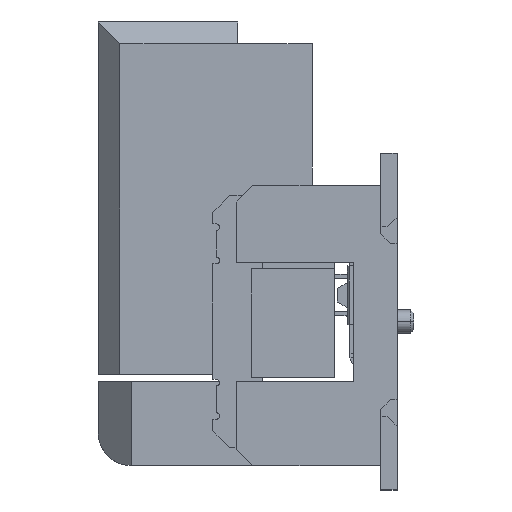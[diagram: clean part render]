
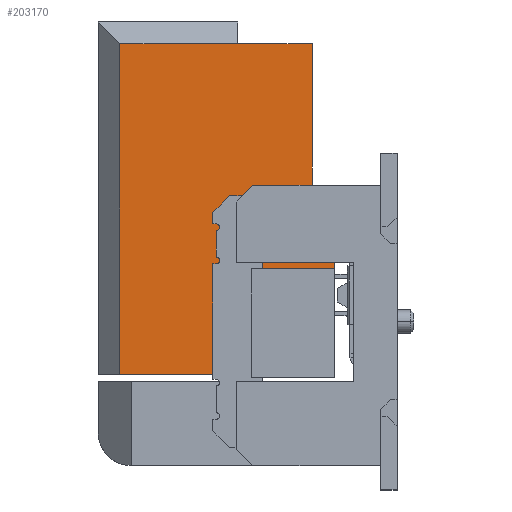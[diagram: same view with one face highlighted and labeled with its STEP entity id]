
A CAD part, left-side view. The second image highlights one B-rep face of the part: STEP entity #203170.
In plain terms, the highlighted planar face has unit normal (-1, 0, 0) as drawn and (1, 0, 0) by its records, which use the part's own axes.
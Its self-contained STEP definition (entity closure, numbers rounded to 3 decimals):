
#155870=CARTESIAN_POINT('',(7.01,12.71,
4.8));
#155880=VERTEX_POINT('',#155870);
#167600=CARTESIAN_POINT('',(7.01,2.75,
8.35));
#167610=VERTEX_POINT('',#167600);
#167640=CARTESIAN_POINT('',(7.01,2.75,
9.));
#167650=DIRECTION('',(0.,0.,-1.));
#167660=VECTOR('',#167650,1.);
#167670=LINE('',#167640,#167660);
#167680=CARTESIAN_POINT('',(7.01,2.75,
4.4));
#167690=VERTEX_POINT('',#167680);
#167700=EDGE_CURVE('',#167610,#167690,#167670,.T.);
#202490=CARTESIAN_POINT('',(7.01,2.75,
4.4));
#202500=DIRECTION('',(1.,0.,-0.));
#202510=DIRECTION('',(0.,0.,1.));
#202520=AXIS2_PLACEMENT_3D('',#202490,#202500,#202510);
#202530=PLANE('',#202520);
#202540=CARTESIAN_POINT('',(7.01,8.055,
8.35));
#202550=DIRECTION('',(0.,1.,0.));
#202560=VECTOR('',#202550,1.);
#202570=LINE('',#202540,#202560);
#202580=CARTESIAN_POINT('',(7.01,12.71,
8.35));
#202590=VERTEX_POINT('',#202580);
#202600=EDGE_CURVE('',#167610,#202590,#202570,.T.);
#202610=ORIENTED_EDGE('',*,*,#202600,.F.);
#202620=CARTESIAN_POINT('',(7.01,12.71,
6.9));
#202630=DIRECTION('',(0.,0.,-1.));
#202640=VECTOR('',#202630,1.);
#202650=LINE('',#202620,#202640);
#202660=EDGE_CURVE('',#202590,#155880,#202650,.T.);
#202670=ORIENTED_EDGE('',*,*,#202660,.F.);
#202680=CARTESIAN_POINT('',(7.01,12.71,
1.9));
#202690=DIRECTION('',(0.,0.,1.));
#202700=VECTOR('',#202690,1.);
#202710=LINE('',#202680,#202700);
#202720=CARTESIAN_POINT('',(7.01,12.71,
2.56));
#202730=VERTEX_POINT('',#202720);
#202740=EDGE_CURVE('',#202730,#155880,#202710,.T.);
#202750=ORIENTED_EDGE('',*,*,#202740,.T.);
#202760=CARTESIAN_POINT('',(7.01,2.75,
2.56));
#202770=DIRECTION('',(0.,-1.,0.));
#202780=VECTOR('',#202770,1.);
#202790=LINE('',#202760,#202780);
#202800=CARTESIAN_POINT('',(7.01,8.33,
2.56));
#202810=VERTEX_POINT('',#202800);
#202820=EDGE_CURVE('',#202730,#202810,#202790,.T.);
#202830=ORIENTED_EDGE('',*,*,#202820,.F.);
#202840=CARTESIAN_POINT('',(7.01,8.33,
1.9));
#202850=DIRECTION('',(0.,0.,-1.));
#202860=VECTOR('',#202850,1.);
#202870=LINE('',#202840,#202860);
#202880=CARTESIAN_POINT('',(7.01,8.33,
1.9));
#202890=VERTEX_POINT('',#202880);
#202900=EDGE_CURVE('',#202810,#202890,#202870,.T.);
#202910=ORIENTED_EDGE('',*,*,#202900,.F.);
#202920=CARTESIAN_POINT('',(7.01,2.75,
1.9));
#202930=DIRECTION('',(0.,1.,0.));
#202940=VECTOR('',#202930,1.);
#202950=LINE('',#202920,#202940);
#202960=CARTESIAN_POINT('',(7.01,5.93,
1.9));
#202970=VERTEX_POINT('',#202960);
#202980=EDGE_CURVE('',#202970,#202890,#202950,.T.);
#202990=ORIENTED_EDGE('',*,*,#202980,.T.);
#203000=CARTESIAN_POINT('',(7.01,5.93,
1.9));
#203010=DIRECTION('',(0.,0.,1.));
#203020=VECTOR('',#203010,1.);
#203030=LINE('',#203000,#203020);
#203040=CARTESIAN_POINT('',(7.01,5.93,
4.4));
#203050=VERTEX_POINT('',#203040);
#203060=EDGE_CURVE('',#202970,#203050,#203030,.T.);
#203070=ORIENTED_EDGE('',*,*,#203060,.F.);
#203080=CARTESIAN_POINT('',(7.01,2.75,
4.4));
#203090=DIRECTION('',(0.,1.,0.));
#203100=VECTOR('',#203090,1.);
#203110=LINE('',#203080,#203100);
#203120=EDGE_CURVE('',#167690,#203050,#203110,.T.);
#203130=ORIENTED_EDGE('',*,*,#203120,.T.);
#203140=ORIENTED_EDGE('',*,*,#167700,.T.);
#203150=EDGE_LOOP('',(#203140,#203130,#203070,#202990,#202910,#202830,
#202750,#202670,#202610));
#203160=FACE_OUTER_BOUND('',#203150,.T.);
#203170=ADVANCED_FACE('',(#203160),#202530,.T.);
